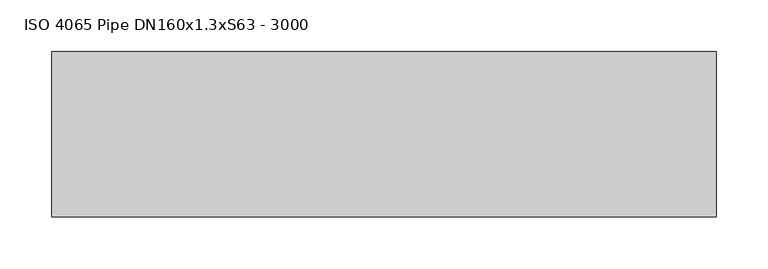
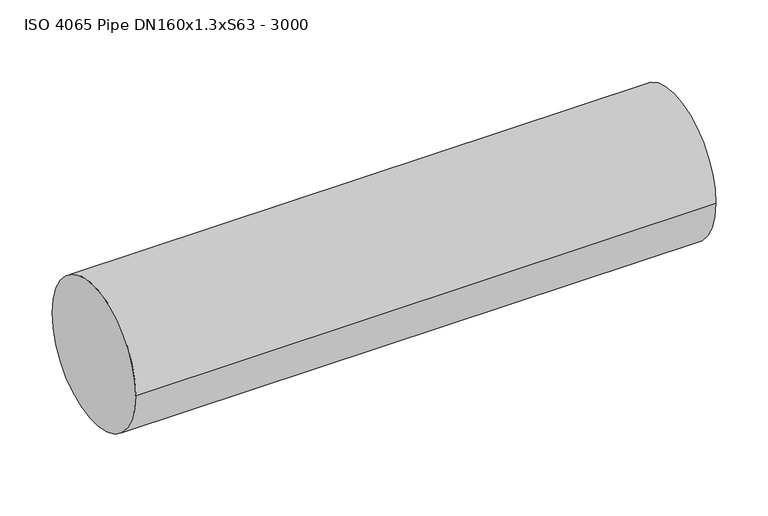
"""IFC4 building model written with IfcOpenShell, lengths in millimetres: proxy geometry, ISO 4065 Pipe DN160x1.3xS63 - 3000."""

from ifc_helpers import new_model, si_unit, frame, origin, place, context, project, spatial, circle_curve, source, transform, mapped, element, save
from ifc_brep_helpers import plane_surface, cylinder_surface, advanced_brep


def iso_4065_pipe_dn160x1_3xs63_3000_ee6f1e2f(model_context):
    return source(origin(), model_context, "Body", "AdvancedBrep", [
        advanced_brep(
        [(0.0, -80.0, 0.0), (642.0, -80.0, 0.0), (642.0, 0.0, 80.0), (642.0, 80.0, 0.0), (0.0, 80.0, 0.0)],
        [
            (0, 1),
            (1, 2, circle_curve(frame((642.0, 0.0, 0.0), z_axis=(-1.0, 0.0, 0.0), x_axis=(0.0, -1.0, 0.0)), 80.0)),
            (2, 3, circle_curve(frame((642.0, 0.0, 0.0), z_axis=(-1.0, 0.0, 0.0), x_axis=(0.0, -1.0, 0.0)), 80.0)),
            (3, 4),
            (4, 0, circle_curve(frame((0.0, 0.0, 0.0), z_axis=(1.0, 0.0, 0.0), x_axis=(0.0, -1.0, 0.0)), 80.0)),
            (4, 0, circle_curve(frame((0.0, 0.0, 0.0), z_axis=(-1.0, 0.0, 0.0), x_axis=(0.0, -1.0, 0.0)), 80.0)),
            (1, 3, circle_curve(frame((642.0, 0.0, 0.0), z_axis=(1.0, 0.0, 0.0), x_axis=(0.0, -1.0, 0.0)), 80.0)),
        ],
        [
            cylinder_surface(frame((0.0, 0.0, 0.0), z_axis=(1.0, 0.0, 0.0), x_axis=(0.0, -1.0, 0.0)), 80.0),
            plane_surface(frame((0.0, 0.0, 0.0), z_axis=(-1.0, 0.0, 0.0), x_axis=(0.0, 0.0, 1.0))),
            plane_surface(frame((642.0, 0.0, 0.0), z_axis=(1.0, 0.0, 0.0), x_axis=(0.0, 0.0, 1.0))),
        ],
        [
            (0, [[1, 2, 3, 4, 5]]),
            (1, [[6, -5]]),
            (2, [[-3, -2, 7]]),
            (0, [[-1, -6, -4, -7]]),
        ],
    ),
    ])


if __name__ == "__main__":
    model = new_model("IFC4")
    model_context = context("Model", 3, world=origin())
    ifc_project = project(units=[si_unit("LENGTHUNIT", "METRE", prefix="MILLI")], contexts=[model_context])
    site = spatial("IfcSite", under=ifc_project)
    building = spatial("IfcBuilding", under=site)
    placement = place(None, origin())
    iso_4065_pipe_dn160x1_3xs63_3000_shape = iso_4065_pipe_dn160x1_3xs63_3000_ee6f1e2f(model_context)
    element("IfcBuildingElementProxy", 1, Name="ISO 4065 Pipe DN160x1.3xS63 - 3000", ObjectType="ISO 4065 Pipe DN160x1.3xS63 - 3000", at=placement, inside=building, context=model_context, shape_type="MappedRepresentation", body=[
        mapped(iso_4065_pipe_dn160x1_3xs63_3000_shape, transform((0.0, 0.0, 0.0), x_axis=(1.0, 0.0, 0.0), y_axis=(0.0, 1.0, 0.0), z_axis=(0.0, 0.0, 1.0))),
    ])
    save(model, "model.ifc")
